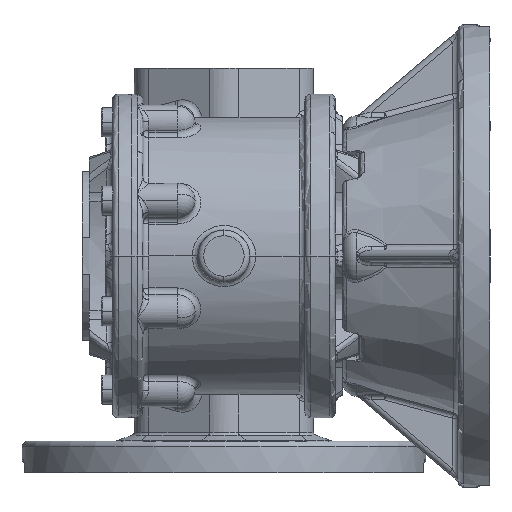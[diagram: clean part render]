
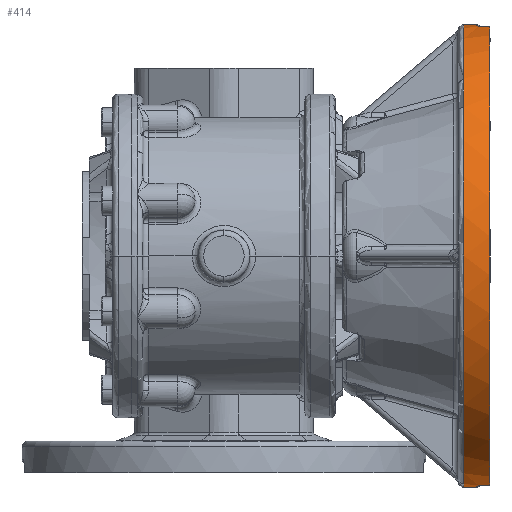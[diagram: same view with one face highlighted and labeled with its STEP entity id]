
A CAD part, front view. The second image highlights one B-rep face of the part: STEP entity #414.
In plain terms, the highlighted cylindrical face has radius 80 mm (diameter 160 mm), a partial arc.
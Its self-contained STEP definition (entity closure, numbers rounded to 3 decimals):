
#371 = ORIENTED_EDGE ( 'NONE', *, *, #18015, .T. ) ;
#396 = EDGE_CURVE ( 'NONE', #8878, #8795, #6499, .T. ) ;
#397 = ORIENTED_EDGE ( 'NONE', *, *, #415, .T. ) ;
#410 = ORIENTED_EDGE ( 'NONE', *, *, #75790, .T. ) ;
#414 = ADVANCED_FACE ( 'NONE', ( #6531 ), #6515, .T. ) ;
#415 = EDGE_CURVE ( 'NONE', #416, #73394, #6510, .T. ) ;
#416 = VERTEX_POINT ( 'NONE', #6507 ) ;
#417 = ORIENTED_EDGE ( 'NONE', *, *, #442, .T. ) ;
#421 = ORIENTED_EDGE ( 'NONE', *, *, #422, .T. ) ;
#422 = EDGE_CURVE ( 'NONE', #18029, #416, #6556, .T. ) ;
#426 = ORIENTED_EDGE ( 'NONE', *, *, #17979, .T. ) ;
#427 = ORIENTED_EDGE ( 'NONE', *, *, #7542, .T. ) ;
#430 = EDGE_CURVE ( 'NONE', #436, #7218, #6535, .T. ) ;
#436 = VERTEX_POINT ( 'NONE', #6514 ) ;
#438 = ORIENTED_EDGE ( 'NONE', *, *, #8108, .F. ) ;
#440 = EDGE_LOOP ( 'NONE', ( #438, #371, #421, #397, #410, #426, #417, #462, #427, #479 ) ) ;
#442 = EDGE_CURVE ( 'NONE', #17985, #436, #6582, .T. ) ;
#462 = ORIENTED_EDGE ( 'NONE', *, *, #430, .T. ) ;
#479 = ORIENTED_EDGE ( 'NONE', *, *, #396, .F. ) ;
#6427 = AXIS2_PLACEMENT_3D ( 'NONE', #6435, #6490, #6489 ) ;
#6435 = CARTESIAN_POINT ( 'NONE',  ( 0., 0., -42. ) ) ;
#6436 = CARTESIAN_POINT ( 'NONE',  ( 0., 0., 59.048 ) ) ;
#6481 = AXIS2_PLACEMENT_3D ( 'NONE', #6436, #6520, #6519 ) ;
#6489 = DIRECTION ( 'NONE',  ( 1., 0., 0. ) ) ;
#6490 = DIRECTION ( 'NONE',  ( 0., 0., 1. ) ) ;
#6499 = CIRCLE ( 'NONE', #6427, 80. ) ;
#6503 = DIRECTION ( 'NONE',  ( 0., 0., -1. ) ) ;
#6504 = VECTOR ( 'NONE', #6503, 1000. ) ;
#6507 = CARTESIAN_POINT ( 'NONE',  ( -79.24, -11.004, -49.5 ) ) ;
#6509 = CARTESIAN_POINT ( 'NONE',  ( -79.24, -11.004, 59.048 ) ) ;
#6510 = LINE ( 'NONE', #6509, #6504 ) ;
#6514 = CARTESIAN_POINT ( 'NONE',  ( 79.6, -7.987, -46.5 ) ) ;
#6515 = CYLINDRICAL_SURFACE ( 'NONE', #6481, 80. ) ;
#6519 = DIRECTION ( 'NONE',  ( 1., 0., 0. ) ) ;
#6520 = DIRECTION ( 'NONE',  ( 0., 0., 1. ) ) ;
#6531 = FACE_OUTER_BOUND ( 'NONE', #440, .T. ) ;
#6532 = AXIS2_PLACEMENT_3D ( 'NONE', #6592, #6591, #6590 ) ;
#6535 = CIRCLE ( 'NONE', #6532, 80. ) ;
#6536 = CARTESIAN_POINT ( 'NONE',  ( -79.24, -11.004, -49.5 ) ) ;
#6537 = CARTESIAN_POINT ( 'NONE',  ( -79.24, -11.004, -49.101 ) ) ;
#6538 = CARTESIAN_POINT ( 'NONE',  ( -79.251, -10.923, -48.705 ) ) ;
#6539 = CARTESIAN_POINT ( 'NONE',  ( -79.282, -10.695, -48.162 ) ) ;
#6540 = CARTESIAN_POINT ( 'NONE',  ( -79.295, -10.601, -47.987 ) ) ;
#6541 = CARTESIAN_POINT ( 'NONE',  ( -79.324, -10.379, -47.66 ) ) ;
#6542 = CARTESIAN_POINT ( 'NONE',  ( -79.34, -10.254, -47.509 ) ) ;
#6543 = CARTESIAN_POINT ( 'NONE',  ( -79.376, -9.975, -47.233 ) ) ;
#6544 = CARTESIAN_POINT ( 'NONE',  ( -79.395, -9.82, -47.107 ) ) ;
#6545 = CARTESIAN_POINT ( 'NONE',  ( -79.435, -9.492, -46.892 ) ) ;
#6546 = CARTESIAN_POINT ( 'NONE',  ( -79.456, -9.319, -46.8 ) ) ;
#6547 = CARTESIAN_POINT ( 'NONE',  ( -79.497, -8.955, -46.651 ) ) ;
#6548 = CARTESIAN_POINT ( 'NONE',  ( -79.519, -8.764, -46.594 ) ) ;
#6549 = CARTESIAN_POINT ( 'NONE',  ( -79.56, -8.381, -46.519 ) ) ;
#6550 = CARTESIAN_POINT ( 'NONE',  ( -79.58, -8.186, -46.5 ) ) ;
#6555 = CARTESIAN_POINT ( 'NONE',  ( -79.6, -7.987, -46.5 ) ) ;
#6556 = B_SPLINE_CURVE_WITH_KNOTS ( 'NONE', 3,
 ( #6555, #6550, #6549, #6548, #6547, #6546, #6545, #6544, #6543, #6542, #6541, #6540, #6539, #6538, #6537, #6536 ),
 .UNSPECIFIED., .F., .F.,
 ( 4, 2, 2, 2, 2, 2, 2, 4 ),
 ( 0., 0.001, 0.001, 0.002, 0.002, 0.003, 0.004, 0.005 ),
 .UNSPECIFIED. ) ;
#6563 = CARTESIAN_POINT ( 'NONE',  ( 79.6, -7.987, -46.5 ) ) ;
#6564 = CARTESIAN_POINT ( 'NONE',  ( 79.56, -8.384, -46.5 ) ) ;
#6565 = CARTESIAN_POINT ( 'NONE',  ( 79.518, -8.778, -46.578 ) ) ;
#6566 = CARTESIAN_POINT ( 'NONE',  ( 79.455, -9.32, -46.801 ) ) ;
#6567 = CARTESIAN_POINT ( 'NONE',  ( 79.435, -9.495, -46.893 ) ) ;
#6568 = CARTESIAN_POINT ( 'NONE',  ( 79.395, -9.825, -47.111 ) ) ;
#6569 = CARTESIAN_POINT ( 'NONE',  ( 79.376, -9.977, -47.235 ) ) ;
#6570 = CARTESIAN_POINT ( 'NONE',  ( 79.34, -10.255, -47.511 ) ) ;
#6571 = CARTESIAN_POINT ( 'NONE',  ( 79.323, -10.383, -47.665 ) ) ;
#6572 = CARTESIAN_POINT ( 'NONE',  ( 79.294, -10.603, -47.991 ) ) ;
#6573 = CARTESIAN_POINT ( 'NONE',  ( 79.282, -10.696, -48.164 ) ) ;
#6574 = CARTESIAN_POINT ( 'NONE',  ( 79.261, -10.848, -48.528 ) ) ;
#6575 = CARTESIAN_POINT ( 'NONE',  ( 79.253, -10.907, -48.719 ) ) ;
#6576 = CARTESIAN_POINT ( 'NONE',  ( 79.242, -10.984, -49.105 ) ) ;
#6578 = CARTESIAN_POINT ( 'NONE',  ( 79.24, -11.004, -49.301 ) ) ;
#6579 = CARTESIAN_POINT ( 'NONE',  ( 79.24, -11.004, -49.5 ) ) ;
#6582 = B_SPLINE_CURVE_WITH_KNOTS ( 'NONE', 3,
 ( #6579, #6578, #6576, #6575, #6574, #6573, #6572, #6571, #6570, #6569, #6568, #6567, #6566, #6565, #6564, #6563 ),
 .UNSPECIFIED., .F., .F.,
 ( 4, 2, 2, 2, 2, 2, 2, 4 ),
 ( 0., 0.001, 0.001, 0.002, 0.002, 0.003, 0.004, 0.005 ),
 .UNSPECIFIED. ) ;
#6590 = DIRECTION ( 'NONE',  ( -1., 0., 0. ) ) ;
#6591 = DIRECTION ( 'NONE',  ( 0., 0., 1. ) ) ;
#6592 = CARTESIAN_POINT ( 'NONE',  ( 0., 0., -46.5 ) ) ;
#7218 = VERTEX_POINT ( 'NONE', #19417 ) ;
#7542 = EDGE_CURVE ( 'NONE', #7218, #8795, #19545, .T. ) ;
#8108 = EDGE_CURVE ( 'NONE', #18018, #8878, #19608, .T. ) ;
#8795 = VERTEX_POINT ( 'NONE', #19726 ) ;
#8878 = VERTEX_POINT ( 'NONE', #19719 ) ;
#17970 = VERTEX_POINT ( 'NONE', #20152 ) ;
#17979 = EDGE_CURVE ( 'NONE', #17970, #17985, #20191, .T. ) ;
#17985 = VERTEX_POINT ( 'NONE', #20178 ) ;
#18015 = EDGE_CURVE ( 'NONE', #18018, #18029, #20245, .T. ) ;
#18018 = VERTEX_POINT ( 'NONE', #20230 ) ;
#18029 = VERTEX_POINT ( 'NONE', #20267 ) ;
#19417 = CARTESIAN_POINT ( 'NONE',  ( 80., 0., -46.5 ) ) ;
#19542 = DIRECTION ( 'NONE',  ( 0., 0., 1. ) ) ;
#19543 = VECTOR ( 'NONE', #19542, 1000. ) ;
#19544 = CARTESIAN_POINT ( 'NONE',  ( 80., 0., 59.048 ) ) ;
#19545 = LINE ( 'NONE', #19544, #19543 ) ;
#19607 = CARTESIAN_POINT ( 'NONE',  ( -80., 0., 59.048 ) ) ;
#19608 = LINE ( 'NONE', #19607, #19637 ) ;
#19636 = DIRECTION ( 'NONE',  ( 0., 0., 1. ) ) ;
#19637 = VECTOR ( 'NONE', #19636, 1000. ) ;
#19719 = CARTESIAN_POINT ( 'NONE',  ( -80., 0., -42. ) ) ;
#19726 = CARTESIAN_POINT ( 'NONE',  ( 80., 0., -42. ) ) ;
#20152 = CARTESIAN_POINT ( 'NONE',  ( 79.24, -11.004, -51. ) ) ;
#20178 = CARTESIAN_POINT ( 'NONE',  ( 79.24, -11.004, -49.5 ) ) ;
#20188 = DIRECTION ( 'NONE',  ( 0., 0., 1. ) ) ;
#20189 = VECTOR ( 'NONE', #20188, 1000. ) ;
#20190 = CARTESIAN_POINT ( 'NONE',  ( 79.24, -11.004, 59.048 ) ) ;
#20191 = LINE ( 'NONE', #20190, #20189 ) ;
#20229 = DIRECTION ( 'NONE',  ( -1., 0., 0. ) ) ;
#20230 = CARTESIAN_POINT ( 'NONE',  ( -80., 0., -46.5 ) ) ;
#20239 = DIRECTION ( 'NONE',  ( 0., 0., 1. ) ) ;
#20244 = CARTESIAN_POINT ( 'NONE',  ( 0., 0., -46.5 ) ) ;
#20245 = CIRCLE ( 'NONE', #20255, 80. ) ;
#20255 = AXIS2_PLACEMENT_3D ( 'NONE', #20244, #20239, #20229 ) ;
#20267 = CARTESIAN_POINT ( 'NONE',  ( -79.6, -7.987, -46.5 ) ) ;
#43732 = DIRECTION ( 'NONE',  ( 1., 0., 0. ) ) ;
#43734 = DIRECTION ( 'NONE',  ( 0., 0., 1. ) ) ;
#43736 = AXIS2_PLACEMENT_3D ( 'NONE', #43782, #43734, #43732 ) ;
#43738 = CIRCLE ( 'NONE', #43736, 80. ) ;
#43782 = CARTESIAN_POINT ( 'NONE',  ( 0., 0., -51. ) ) ;
#73394 = VERTEX_POINT ( 'NONE', #106024 ) ;
#75790 = EDGE_CURVE ( 'NONE', #73394, #17970, #43738, .T. ) ;
#106024 = CARTESIAN_POINT ( 'NONE',  ( -79.24, -11.004, -51. ) ) ;
